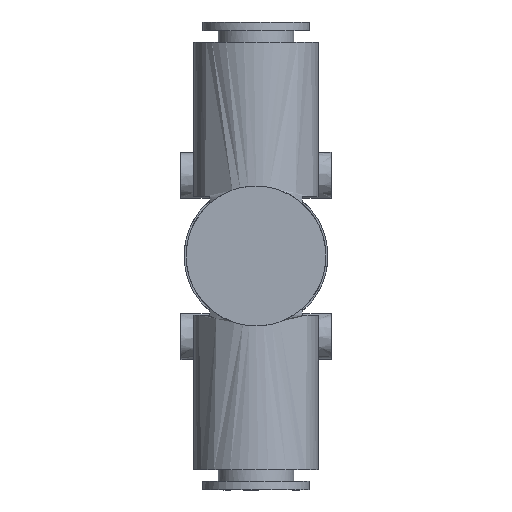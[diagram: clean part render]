
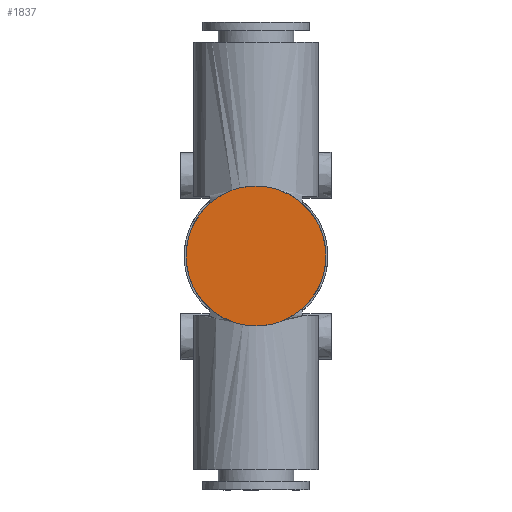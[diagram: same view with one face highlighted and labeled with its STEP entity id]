
A CAD part, front view. The second image highlights one B-rep face of the part: STEP entity #1837.
In plain terms, the highlighted planar face has unit normal (0, -1, 0).
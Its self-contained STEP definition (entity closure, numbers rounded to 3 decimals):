
#802 = EDGE_CURVE ( 'NONE', #3632, #990, #2710, .T. ) ;
#887 = CARTESIAN_POINT ( 'NONE',  ( -12.296, -11.3, 12.296 ) ) ;
#990 = VERTEX_POINT ( 'NONE', #4095 ) ;
#1029 = CARTESIAN_POINT ( 'NONE',  ( 0., -11.3, -12.15 ) ) ;
#1305 = CARTESIAN_POINT ( 'NONE',  ( 24.3, -11.3, -12.15 ) ) ;
#1544 = EDGE_CURVE ( 'NONE', #990, #3632, #1756, .T. ) ;
#1600 = CARTESIAN_POINT ( 'NONE',  ( -24.3, -11.3, -12.15 ) ) ;
#1756 =( BOUNDED_CURVE ( )  B_SPLINE_CURVE ( 3, ( #2819, #3464, #1305, #3503 ),
 .UNSPECIFIED., .F., .T. ) 
 B_SPLINE_CURVE_WITH_KNOTS ( ( 4, 4 ),
 ( 0., 0.5 ),
 .UNSPECIFIED. ) 
 CURVE ( )  GEOMETRIC_REPRESENTATION_ITEM ( )  RATIONAL_B_SPLINE_CURVE ( ( 1., 0.333, 0.333, 1. ) ) 
 REPRESENTATION_ITEM ( '' )  );
#1837 = ADVANCED_FACE ( 'NONE', ( #3689 ), #3728, .T. ) ;
#1852 = AXIS2_PLACEMENT_3D ( 'NONE', #887, #2838, #1949 ) ;
#1934 = CARTESIAN_POINT ( 'NONE',  ( 0., -11.3, 12.15 ) ) ;
#1949 = DIRECTION ( 'NONE',  ( 0., 0., -1. ) ) ;
#1977 = CARTESIAN_POINT ( 'NONE',  ( 0., -11.3, -12.15 ) ) ;
#2580 = ORIENTED_EDGE ( 'NONE', *, *, #1544, .F. ) ;
#2710 =( BOUNDED_CURVE ( )  B_SPLINE_CURVE ( 3, ( #1977, #1600, #3241, #1934 ),
 .UNSPECIFIED., .F., .T. ) 
 B_SPLINE_CURVE_WITH_KNOTS ( ( 4, 4 ),
 ( 0.5, 1. ),
 .UNSPECIFIED. ) 
 CURVE ( )  GEOMETRIC_REPRESENTATION_ITEM ( )  RATIONAL_B_SPLINE_CURVE ( ( 1., 0.333, 0.333, 1. ) ) 
 REPRESENTATION_ITEM ( '' )  );
#2819 = CARTESIAN_POINT ( 'NONE',  ( 0., -11.3, 12.15 ) ) ;
#2838 = DIRECTION ( 'NONE',  ( 0., -1., 0. ) ) ;
#3241 = CARTESIAN_POINT ( 'NONE',  ( -24.3, -11.3, 12.15 ) ) ;
#3381 = EDGE_LOOP ( 'NONE', ( #2580, #3634 ) ) ;
#3464 = CARTESIAN_POINT ( 'NONE',  ( 24.3, -11.3, 12.15 ) ) ;
#3503 = CARTESIAN_POINT ( 'NONE',  ( 0., -11.3, -12.15 ) ) ;
#3632 = VERTEX_POINT ( 'NONE', #1029 ) ;
#3634 = ORIENTED_EDGE ( 'NONE', *, *, #802, .F. ) ;
#3689 = FACE_OUTER_BOUND ( 'NONE', #3381, .T. ) ;
#3728 = PLANE ( 'NONE',  #1852 ) ;
#4095 = CARTESIAN_POINT ( 'NONE',  ( 0., -11.3, 12.15 ) ) ;
